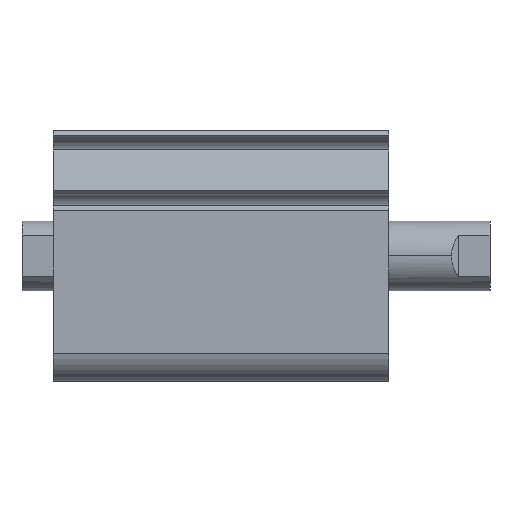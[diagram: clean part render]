
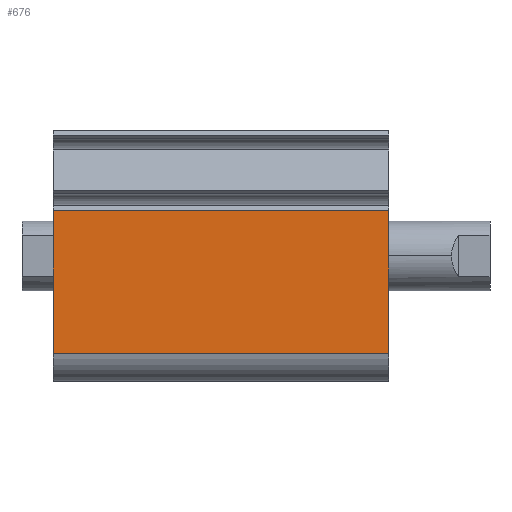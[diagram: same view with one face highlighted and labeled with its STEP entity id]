
A CAD part, top view. The second image highlights one B-rep face of the part: STEP entity #676.
In plain terms, the highlighted planar face has unit normal (0, 0, 1).
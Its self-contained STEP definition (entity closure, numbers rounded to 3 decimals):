
#179 = DIRECTION ( 'NONE',  ( 0., -1., 0. ) ) ;
#197 = FACE_OUTER_BOUND ( 'NONE', #3372, .T. ) ;
#259 = VERTEX_POINT ( 'NONE', #1427 ) ;
#311 = VECTOR ( 'NONE', #1607, 1000. ) ;
#484 = VERTEX_POINT ( 'NONE', #1826 ) ;
#492 = ORIENTED_EDGE ( 'NONE', *, *, #1116, .F. ) ;
#516 = ORIENTED_EDGE ( 'NONE', *, *, #2905, .F. ) ;
#647 = DIRECTION ( 'NONE',  ( -1., 0., 0. ) ) ;
#673 = EDGE_CURVE ( 'NONE', #259, #2526, #3393, .T. ) ;
#676 = ADVANCED_FACE ( 'NONE', ( #197 ), #1560, .F. ) ;
#703 = VERTEX_POINT ( 'NONE', #3424 ) ;
#770 = CARTESIAN_POINT ( 'NONE',  ( 0., 6.466, 18. ) ) ;
#935 = CARTESIAN_POINT ( 'NONE',  ( 48., 6.466, 18. ) ) ;
#958 = CARTESIAN_POINT ( 'NONE',  ( 48., 6.466, 18. ) ) ;
#1030 = ORIENTED_EDGE ( 'NONE', *, *, #673, .T. ) ;
#1116 = EDGE_CURVE ( 'NONE', #484, #703, #2140, .T. ) ;
#1269 = VECTOR ( 'NONE', #647, 1000. ) ;
#1327 = EDGE_CURVE ( 'NONE', #484, #259, #3294, .T. ) ;
#1427 = CARTESIAN_POINT ( 'NONE',  ( 0., 6.466, 18. ) ) ;
#1457 = CARTESIAN_POINT ( 'NONE',  ( 48., -13.98, 18. ) ) ;
#1560 = PLANE ( 'NONE',  #1949 ) ;
#1607 = DIRECTION ( 'NONE',  ( 0., -1., 0. ) ) ;
#1645 = DIRECTION ( 'NONE',  ( -1., 0., 0. ) ) ;
#1826 = CARTESIAN_POINT ( 'NONE',  ( 48., 6.466, 18. ) ) ;
#1833 = DIRECTION ( 'NONE',  ( 0., -1., 0. ) ) ;
#1949 = AXIS2_PLACEMENT_3D ( 'NONE', #958, #3074, #179 ) ;
#2140 = LINE ( 'NONE', #2929, #311 ) ;
#2239 = VECTOR ( 'NONE', #1645, 1000. ) ;
#2479 = LINE ( 'NONE', #1457, #1269 ) ;
#2526 = VERTEX_POINT ( 'NONE', #3109 ) ;
#2905 = EDGE_CURVE ( 'NONE', #703, #2526, #2479, .T. ) ;
#2929 = CARTESIAN_POINT ( 'NONE',  ( 48., 6.466, 18. ) ) ;
#3030 = ORIENTED_EDGE ( 'NONE', *, *, #1327, .T. ) ;
#3074 = DIRECTION ( 'NONE',  ( 0., 0., -1. ) ) ;
#3109 = CARTESIAN_POINT ( 'NONE',  ( 0., -13.98, 18. ) ) ;
#3259 = VECTOR ( 'NONE', #1833, 1000. ) ;
#3294 = LINE ( 'NONE', #935, #2239 ) ;
#3372 = EDGE_LOOP ( 'NONE', ( #1030, #516, #492, #3030 ) ) ;
#3393 = LINE ( 'NONE', #770, #3259 ) ;
#3424 = CARTESIAN_POINT ( 'NONE',  ( 48., -13.98, 18. ) ) ;
